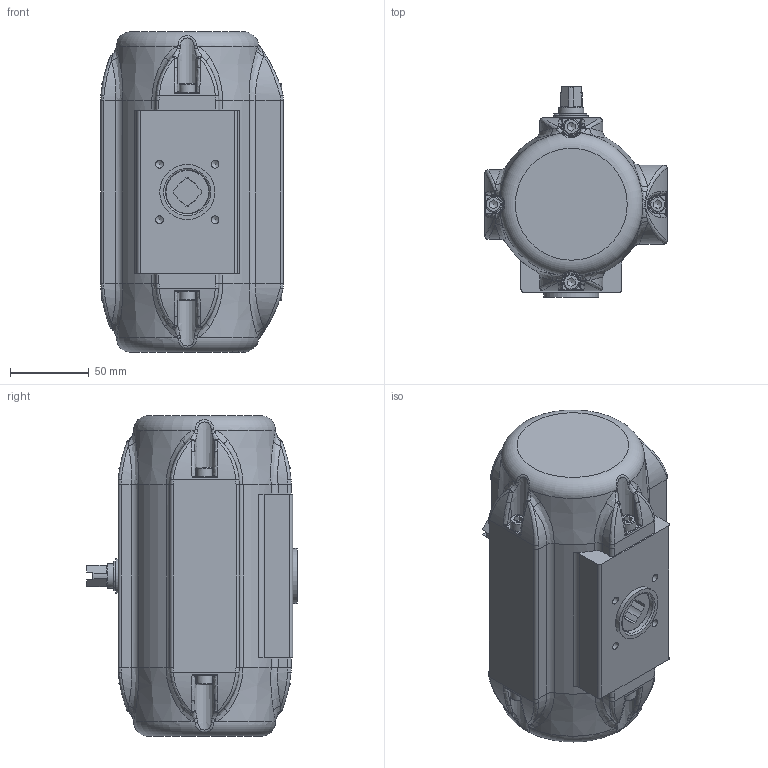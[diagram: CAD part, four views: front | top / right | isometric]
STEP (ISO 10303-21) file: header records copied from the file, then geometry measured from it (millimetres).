
FILE_DESCRIPTION(/* description */ (''),/* implementation_level */ '2;1');
FILE_NAME(/* name */ 'C:\Users\war\Desktop\BR03C_SAF_15.stp',/* time_stamp */ '2021-02-05T13:37:58+01:00',/* author */ ('war'),/* organization */ (''),/* preprocessor_version */ 'ST-DEVELOPER v18.1',/* originating_system */ 'Autodesk Inventor 2021',/* authorisation */ '');
FILE_SCHEMA (('AUTOMOTIVE_DESIGN { 1 0 10303 214 3 1 1 }'));
Products named in the file (1): ENG-089136_Shrinkwrap_1
Bounding box: 116 x 134 x 203.9 mm (x, y, z)
Volume: 852396.8 mm3; surface area: 190189.6 mm2
Topology: 1 solids, 1 shells, 1175 faces, 3243 edges, 2090 vertices
Faces by surface type: cylinder 334, bspline 329, plane 276, torus 113, cone 111, sphere 12
Full cylindrical faces by diameter (mm): 1.7 x2, 4.134 x8, 4.917 x5, 5 x2, 10 x12, 11.445 x2, 11.8 x1, 12 x1, 14 x1, 14.9 x1, 15.8 x3, 16 x1, 16.1 x1, 19 x12, 19.8 x1, 20 x1, 22 x2, 23.8 x1, 24 x1, 27.8 x3, 28 x1, 35 x1, 82 x1, 85 x2
Entity records: 54315 total; most frequent: CARTESIAN_POINT 25943, ORIENTED_EDGE 6412, DIRECTION 4690, EDGE_CURVE 3206, VERTEX_POINT 2090, AXIS2_PLACEMENT_3D 1958, B_SPLINE_CURVE_WITH_KNOTS 1249, EDGE_LOOP 1242
